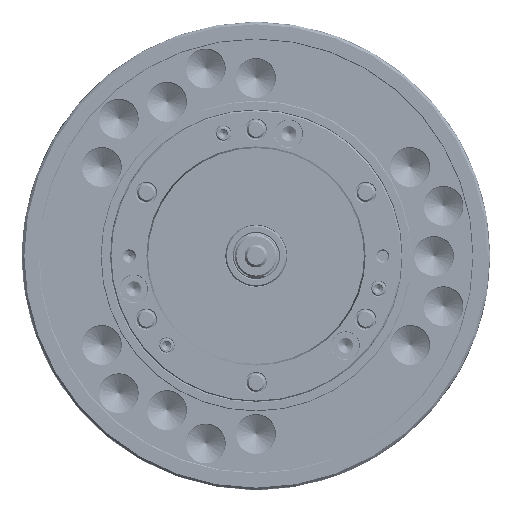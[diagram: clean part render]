
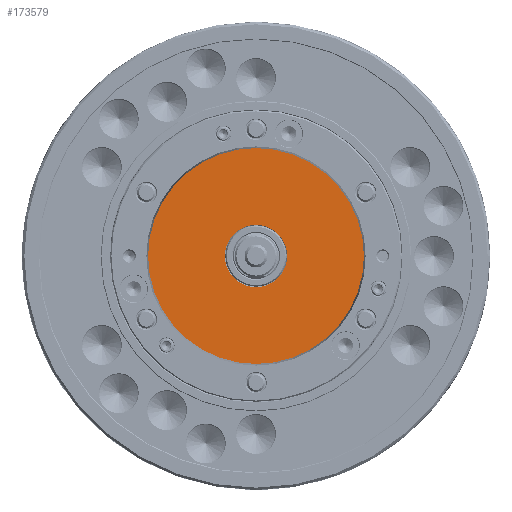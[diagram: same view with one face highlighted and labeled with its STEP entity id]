
A CAD part, left-side view. The second image highlights one B-rep face of the part: STEP entity #173579.
In plain terms, the highlighted planar face has unit normal (-1, 0, 0).
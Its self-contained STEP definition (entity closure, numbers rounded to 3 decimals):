
#5703 = DIRECTION ( 'NONE',  ( 0., 0., 1. ) ) ;
#7573 = EDGE_CURVE ( 'NONE', #228804, #202806, #78106, .T. ) ;
#18169 = ORIENTED_EDGE ( 'NONE', *, *, #7573, .T. ) ;
#18905 = FACE_BOUND ( 'NONE', #150531, .T. ) ;
#23763 = DIRECTION ( 'NONE',  ( -1., 0., 0. ) ) ;
#33524 = AXIS2_PLACEMENT_3D ( 'NONE', #125598, #152014, #129719 ) ;
#42758 = ORIENTED_EDGE ( 'NONE', *, *, #53932, .F. ) ;
#53932 = EDGE_CURVE ( 'NONE', #111979, #179376, #202428, .T. ) ;
#55094 = DIRECTION ( 'NONE',  ( 0., 0., 1. ) ) ;
#66307 = PLANE ( 'NONE',  #121813 ) ;
#78106 = CIRCLE ( 'NONE', #33524, 140.7 ) ;
#83040 = DIRECTION ( 'NONE',  ( 0., 0., -1. ) ) ;
#88534 = EDGE_CURVE ( 'NONE', #202806, #228804, #140005, .T. ) ;
#95409 = CARTESIAN_POINT ( 'NONE',  ( -145., 0., 40.6 ) ) ;
#108951 = AXIS2_PLACEMENT_3D ( 'NONE', #110367, #156325, #5703 ) ;
#110367 = CARTESIAN_POINT ( 'NONE',  ( -145., 0., 0. ) ) ;
#111979 = VERTEX_POINT ( 'NONE', #95409 ) ;
#121813 = AXIS2_PLACEMENT_3D ( 'NONE', #257398, #212764, #83040 ) ;
#125598 = CARTESIAN_POINT ( 'NONE',  ( -145., 0., 0. ) ) ;
#126323 = FACE_OUTER_BOUND ( 'NONE', #197927, .T. ) ;
#129719 = DIRECTION ( 'NONE',  ( 0., 0., 1. ) ) ;
#131637 = CARTESIAN_POINT ( 'NONE',  ( -145., 0., -40.6 ) ) ;
#140005 = CIRCLE ( 'NONE', #108951, 140.7 ) ;
#150531 = EDGE_LOOP ( 'NONE', ( #42758, #244985 ) ) ;
#152014 = DIRECTION ( 'NONE',  ( -1., 0., 0. ) ) ;
#156325 = DIRECTION ( 'NONE',  ( -1., 0., 0. ) ) ;
#161117 = CARTESIAN_POINT ( 'NONE',  ( -145., 0., 0. ) ) ;
#173579 = ADVANCED_FACE ( 'NONE', ( #18905, #126323 ), #66307, .F. ) ;
#175736 = CARTESIAN_POINT ( 'NONE',  ( -145., 0., 0. ) ) ;
#179376 = VERTEX_POINT ( 'NONE', #131637 ) ;
#181988 = CIRCLE ( 'NONE', #222026, 40.6 ) ;
#196703 = DIRECTION ( 'NONE',  ( 0., 0., 1. ) ) ;
#197927 = EDGE_LOOP ( 'NONE', ( #241368, #18169 ) ) ;
#202428 = CIRCLE ( 'NONE', #238032, 40.6 ) ;
#202806 = VERTEX_POINT ( 'NONE', #251894 ) ;
#212764 = DIRECTION ( 'NONE',  ( 1., 0., 0. ) ) ;
#213653 = EDGE_CURVE ( 'NONE', #179376, #111979, #181988, .T. ) ;
#222026 = AXIS2_PLACEMENT_3D ( 'NONE', #161117, #246195, #55094 ) ;
#228804 = VERTEX_POINT ( 'NONE', #233609 ) ;
#233609 = CARTESIAN_POINT ( 'NONE',  ( -145., 0., -140.7 ) ) ;
#238032 = AXIS2_PLACEMENT_3D ( 'NONE', #175736, #23763, #196703 ) ;
#241368 = ORIENTED_EDGE ( 'NONE', *, *, #88534, .T. ) ;
#244985 = ORIENTED_EDGE ( 'NONE', *, *, #213653, .F. ) ;
#246195 = DIRECTION ( 'NONE',  ( -1., 0., 0. ) ) ;
#251894 = CARTESIAN_POINT ( 'NONE',  ( -145., 0., 140.7 ) ) ;
#257398 = CARTESIAN_POINT ( 'NONE',  ( -145., 140.7, 0. ) ) ;
